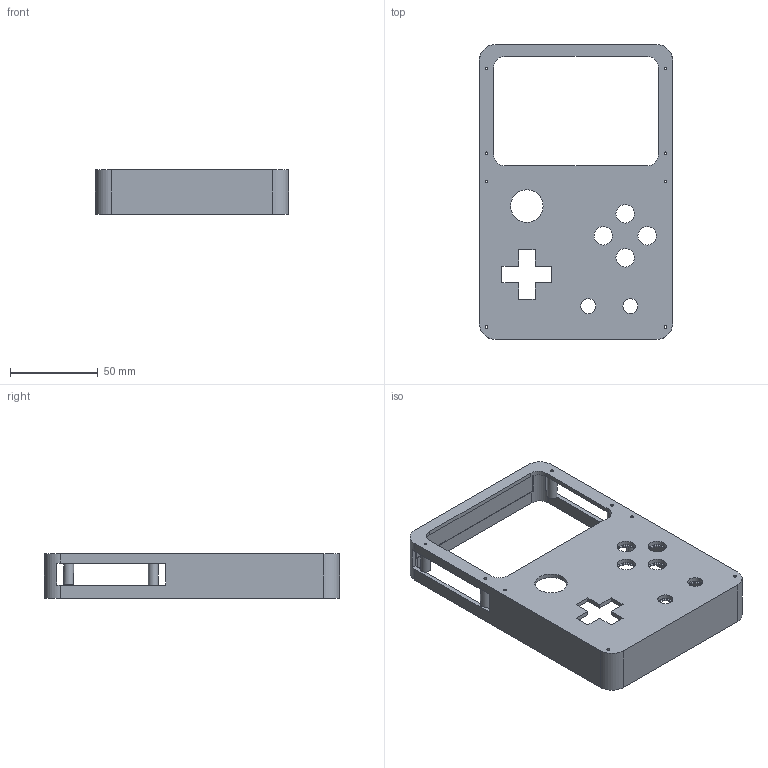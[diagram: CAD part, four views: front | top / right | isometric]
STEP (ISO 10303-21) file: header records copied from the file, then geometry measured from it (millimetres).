
FILE_DESCRIPTION(('FreeCAD Model'),'2;1');
FILE_NAME('Open CASCADE Shape Model','2026-10-20T15:18:15',('FreeCAD'),( 'FreeCAD'),'Open CASCADE STEP processor 7.8','FreeCAD','Unknown');
FILE_SCHEMA(('AUTOMOTIVE_DESIGN { 1 0 10303 214 1 1 1 1 }'));
Length unit declared in the file: millimetre
Products named in the file (1): Open CASCADE STEP translator 7.8 2
Bounding box: 110 x 168 x 25.6 mm (x, y, z)
Volume: 56577.7 mm3; surface area: 51910.1 mm2
Topology: 1 solids, 1 shells, 122 faces, 331 edges, 222 vertices
Faces by surface type: plane 69, cylinder 53
Full cylindrical faces by diameter (mm): 1.6 x8, 5.6 x4, 8.5 x2, 8.9 x2, 10.5 x4, 10.7 x2, 11.1 x4, 12.6 x2, 12.9 x4, 14.8 x4, 18.5 x1
Entity records: 3989 total; most frequent: DIRECTION 705, CARTESIAN_POINT 682, ORIENTED_EDGE 662, EDGE_CURVE 331, AXIS2_PLACEMENT_3D 257, VERTEX_POINT 222, LINE 191, VECTOR 191
